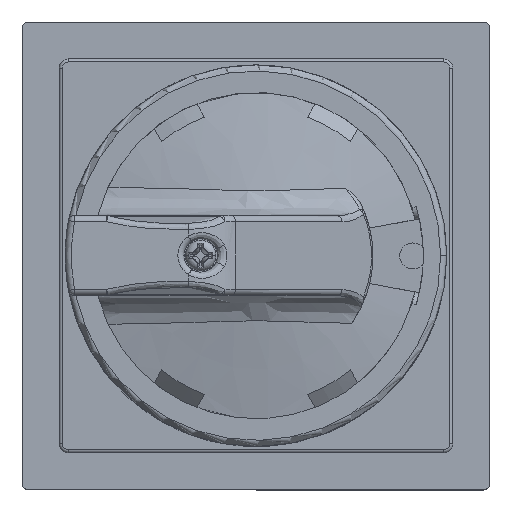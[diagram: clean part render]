
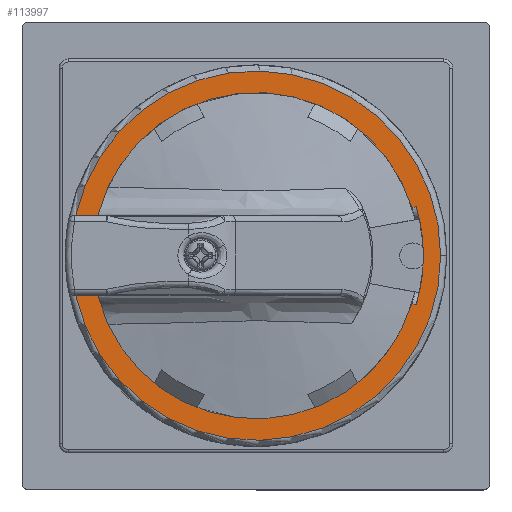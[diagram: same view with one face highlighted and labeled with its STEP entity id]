
A CAD part, top view. The second image highlights one B-rep face of the part: STEP entity #113997.
In plain terms, the highlighted planar face has unit normal (0, 0, 1).
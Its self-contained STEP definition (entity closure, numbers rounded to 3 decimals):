
#3514 = VERTEX_POINT ( 'NONE', #160504 ) ;
#5431 = EDGE_CURVE ( 'NONE', #173556, #3514, #117029, .T. ) ;
#5760 = CIRCLE ( 'NONE', #104429, 26.5 ) ;
#8449 = ORIENTED_EDGE ( 'NONE', *, *, #86488, .T. ) ;
#10697 = CARTESIAN_POINT ( 'NONE',  ( 26.016, -7.939, 105.5 ) ) ;
#10945 = ORIENTED_EDGE ( 'NONE', *, *, #52304, .T. ) ;
#12113 = CIRCLE ( 'NONE', #152215, 30. ) ;
#13707 = CIRCLE ( 'NONE', #208122, 27.2 ) ;
#17543 = CARTESIAN_POINT ( 'NONE',  ( 0., 0., 105.5 ) ) ;
#18077 = EDGE_CURVE ( 'NONE', #127101, #104584, #5760, .T. ) ;
#19709 = DIRECTION ( 'NONE',  ( -0.983, 0.183, 0. ) ) ;
#22931 = CARTESIAN_POINT ( 'NONE',  ( -30.311, 6.5, 105.5 ) ) ;
#33049 = VERTEX_POINT ( 'NONE', #55877 ) ;
#35175 = DIRECTION ( 'NONE',  ( 0., 0., 1. ) ) ;
#38927 = CARTESIAN_POINT ( 'NONE',  ( 0., 0., 105.5 ) ) ;
#40360 = CARTESIAN_POINT ( 'NONE',  ( -29.287, 6.5, 105.5 ) ) ;
#45666 = EDGE_CURVE ( 'NONE', #33049, #3514, #153806, .T. ) ;
#45897 = CIRCLE ( 'NONE', #228564, 27.2 ) ;
#46425 = LINE ( 'NONE', #60796, #167539 ) ;
#49260 = ORIENTED_EDGE ( 'NONE', *, *, #205571, .T. ) ;
#52117 = VECTOR ( 'NONE', #97286, 1000. ) ;
#52304 = EDGE_CURVE ( 'NONE', #173556, #207936, #12113, .T. ) ;
#55877 = CARTESIAN_POINT ( 'NONE',  ( 25.323, -7.81, 105.5 ) ) ;
#60796 = CARTESIAN_POINT ( 'NONE',  ( 26.165, 7.966, 105.5 ) ) ;
#62376 = DIRECTION ( 'NONE',  ( 0.983, 0.183, 0. ) ) ;
#63756 = ORIENTED_EDGE ( 'NONE', *, *, #5431, .F. ) ;
#69217 = CARTESIAN_POINT ( 'NONE',  ( 0., 0., 105.5 ) ) ;
#69747 = ORIENTED_EDGE ( 'NONE', *, *, #137652, .T. ) ;
#71416 = DIRECTION ( 'NONE',  ( 1., 0., 0. ) ) ;
#76664 = VERTEX_POINT ( 'NONE', #153108 ) ;
#77483 = DIRECTION ( 'NONE',  ( -1., 0., 0. ) ) ;
#79393 = CARTESIAN_POINT ( 'NONE',  ( 25.323, 7.81, 105.5 ) ) ;
#83029 = DIRECTION ( 'NONE',  ( 0., 0., -1. ) ) ;
#83109 = CARTESIAN_POINT ( 'NONE',  ( -25.69, 6.5, 105.5 ) ) ;
#83435 = LINE ( 'NONE', #165418, #114372 ) ;
#86488 = EDGE_CURVE ( 'NONE', #207936, #146796, #213691, .T. ) ;
#86570 = DIRECTION ( 'NONE',  ( 1., 0., 0. ) ) ;
#88046 = AXIS2_PLACEMENT_3D ( 'NONE', #154654, #83029, #225563 ) ;
#92090 = DIRECTION ( 'NONE',  ( 0., 0., 1. ) ) ;
#97286 = DIRECTION ( 'NONE',  ( 1., 0., 0. ) ) ;
#100279 = EDGE_CURVE ( 'NONE', #76664, #219204, #13707, .T. ) ;
#104429 = AXIS2_PLACEMENT_3D ( 'NONE', #38927, #149088, #77483 ) ;
#104584 = VERTEX_POINT ( 'NONE', #79393 ) ;
#104661 = DIRECTION ( 'NONE',  ( 1., 0., 0. ) ) ;
#105936 = ORIENTED_EDGE ( 'NONE', *, *, #18077, .T. ) ;
#106901 = EDGE_CURVE ( 'NONE', #200143, #76664, #45897, .T. ) ;
#107390 = DIRECTION ( 'NONE',  ( 1., 0., 0. ) ) ;
#107441 = AXIS2_PLACEMENT_3D ( 'NONE', #194377, #92090, #104661 ) ;
#108377 = CARTESIAN_POINT ( 'NONE',  ( 0., 0., 105.5 ) ) ;
#112264 = CARTESIAN_POINT ( 'NONE',  ( 17.854, -6.5, 105.5 ) ) ;
#113542 = CARTESIAN_POINT ( 'NONE',  ( 30., 0., 105.5 ) ) ;
#113916 = DIRECTION ( 'NONE',  ( 0., 0., 1. ) ) ;
#113997 = ADVANCED_FACE ( 'NONE', ( #184754 ), #199927, .T. ) ;
#114372 = VECTOR ( 'NONE', #19709, 1000. ) ;
#116054 = VECTOR ( 'NONE', #186636, 1000. ) ;
#117029 = LINE ( 'NONE', #112264, #52117 ) ;
#125438 = EDGE_CURVE ( 'NONE', #127101, #146796, #189161, .T. ) ;
#127101 = VERTEX_POINT ( 'NONE', #83109 ) ;
#137652 = EDGE_CURVE ( 'NONE', #200143, #33049, #83435, .T. ) ;
#141305 = DIRECTION ( 'NONE',  ( 0., 0., 1. ) ) ;
#146796 = VERTEX_POINT ( 'NONE', #40360 ) ;
#149088 = DIRECTION ( 'NONE',  ( 0., 0., -1. ) ) ;
#150886 = CARTESIAN_POINT ( 'NONE',  ( 0., 0., 105.5 ) ) ;
#152215 = AXIS2_PLACEMENT_3D ( 'NONE', #108377, #35175, #71416 ) ;
#153108 = CARTESIAN_POINT ( 'NONE',  ( 27.2, 0., 105.5 ) ) ;
#153806 = CIRCLE ( 'NONE', #88046, 26.5 ) ;
#154654 = CARTESIAN_POINT ( 'NONE',  ( 0., 0., 105.5 ) ) ;
#158238 = DIRECTION ( 'NONE',  ( 0., 0., 1. ) ) ;
#160504 = CARTESIAN_POINT ( 'NONE',  ( -25.69, -6.5, 105.5 ) ) ;
#164113 = ORIENTED_EDGE ( 'NONE', *, *, #106901, .F. ) ;
#165418 = CARTESIAN_POINT ( 'NONE',  ( 25.476, -7.838, 105.5 ) ) ;
#167539 = VECTOR ( 'NONE', #62376, 1000. ) ;
#169439 = CARTESIAN_POINT ( 'NONE',  ( 26.016, 7.939, 105.5 ) ) ;
#172466 = EDGE_LOOP ( 'NONE', ( #63756, #10945, #8449, #176159, #105936, #49260, #215870, #164113, #69747, #195689 ) ) ;
#173556 = VERTEX_POINT ( 'NONE', #197104 ) ;
#176159 = ORIENTED_EDGE ( 'NONE', *, *, #125438, .F. ) ;
#183956 = DIRECTION ( 'NONE',  ( 1., 0., 0. ) ) ;
#184754 = FACE_OUTER_BOUND ( 'NONE', #172466, .T. ) ;
#186636 = DIRECTION ( 'NONE',  ( -1., 0., 0. ) ) ;
#189161 = LINE ( 'NONE', #22931, #116054 ) ;
#194377 = CARTESIAN_POINT ( 'NONE',  ( -31., 0., 105.5 ) ) ;
#195689 = ORIENTED_EDGE ( 'NONE', *, *, #45666, .T. ) ;
#197104 = CARTESIAN_POINT ( 'NONE',  ( -29.287, -6.5, 105.5 ) ) ;
#199927 = PLANE ( 'NONE',  #107441 ) ;
#200143 = VERTEX_POINT ( 'NONE', #10697 ) ;
#205571 = EDGE_CURVE ( 'NONE', #104584, #219204, #46425, .T. ) ;
#207936 = VERTEX_POINT ( 'NONE', #113542 ) ;
#208122 = AXIS2_PLACEMENT_3D ( 'NONE', #69217, #158238, #86570 ) ;
#213691 = CIRCLE ( 'NONE', #215671, 30. ) ;
#215671 = AXIS2_PLACEMENT_3D ( 'NONE', #150886, #113916, #183956 ) ;
#215870 = ORIENTED_EDGE ( 'NONE', *, *, #100279, .F. ) ;
#219204 = VERTEX_POINT ( 'NONE', #169439 ) ;
#225563 = DIRECTION ( 'NONE',  ( -1., 0., 0. ) ) ;
#228564 = AXIS2_PLACEMENT_3D ( 'NONE', #17543, #141305, #107390 ) ;
